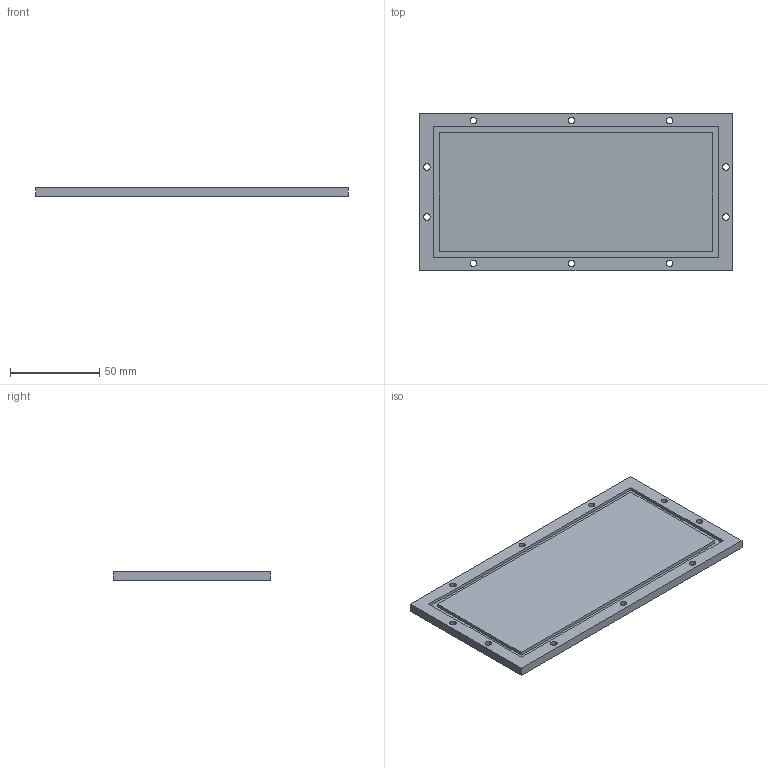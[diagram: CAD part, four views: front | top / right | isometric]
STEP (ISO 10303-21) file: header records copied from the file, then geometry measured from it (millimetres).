
FILE_DESCRIPTION(('FreeCAD Model'),'2;1');
FILE_NAME('Open CASCADE Shape Model','2026-09-11T17:58:35',( '' ),( '' ),'Open CASCADE STEP processor 7.8','FreeCAD','Unknown');
FILE_SCHEMA(('AUTOMOTIVE_DESIGN { 1 0 10303 214 1 1 1 1 }'));
Length unit declared in the file: millimetre
Products named in the file (1): Open CASCADE STEP translator 7.8 5
Bounding box: 175 x 88 x 5 mm (x, y, z)
Volume: 73689.4 mm3; surface area: 35489.9 mm2
Topology: 1 solids, 1 shells, 26 faces, 66 edges, 44 vertices
Faces by surface type: plane 16, cylinder 10
Full cylindrical faces by diameter (mm): 3.6 x10
Entity records: 840 total; most frequent: DIRECTION 140, CARTESIAN_POINT 137, ORIENTED_EDGE 132, EDGE_CURVE 66, FACE_BOUND 48, EDGE_LOOP 48, AXIS2_PLACEMENT_3D 47, LINE 46
